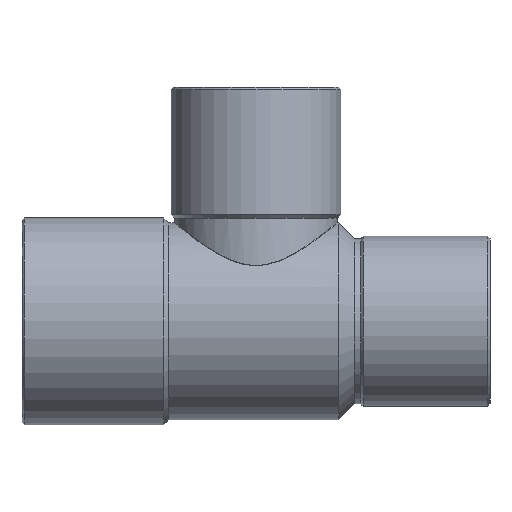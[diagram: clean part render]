
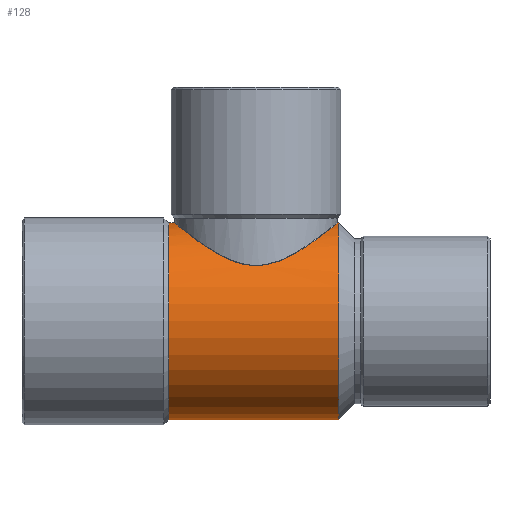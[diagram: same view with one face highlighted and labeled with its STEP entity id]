
A CAD part, top view. The second image highlights one B-rep face of the part: STEP entity #128.
In plain terms, the highlighted cylindrical face has radius 8 mm (diameter 16 mm), a partial arc.
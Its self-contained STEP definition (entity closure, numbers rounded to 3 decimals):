
#44=CARTESIAN_POINT('',(0.,0.,0.0));
#45=DIRECTION('',(1.0,0.,0.0));
#46=DIRECTION('',(0.0,1.0,0.0));
#47=AXIS2_PLACEMENT_3D('',#44,#45,#46);
#48=CYLINDRICAL_SURFACE('',#47,8.);
#49=CARTESIAN_POINT('',(-7.1,8.0,0.));
#50=VERTEX_POINT('',#49);
#51=CARTESIAN_POINT('',(-6.63,8.,0.));
#52=VERTEX_POINT('',#51);
#53=CARTESIAN_POINT('',(-7.1,8.0,0.));
#54=DIRECTION('',(1.0,0.0,0.0));
#55=VECTOR('',#54,0.47);
#56=LINE('',#53,#55);
#57=EDGE_CURVE('',#50,#52,#56,.T.);
#58=ORIENTED_EDGE('',*,*,#57,.F.);
#59=CARTESIAN_POINT('',(-7.1,-8.,0.));
#60=VERTEX_POINT('',#59);
#61=CARTESIAN_POINT('',(-7.1,0.,0.0));
#62=DIRECTION('',(1.0,0.0,0.0));
#63=DIRECTION('',(0.0,1.0,0.0));
#64=AXIS2_PLACEMENT_3D('',#61,#62,#63);
#65=CIRCLE('',#64,8.);
#66=EDGE_CURVE('',#50,#60,#65,.T.);
#67=ORIENTED_EDGE('',*,*,#66,.T.);
#68=CARTESIAN_POINT('',(6.7,-8.,0.));
#69=VERTEX_POINT('',#68);
#70=CARTESIAN_POINT('',(6.7,-8.,0.));
#71=DIRECTION('',(-1.0,0.0,0.0));
#72=VECTOR('',#71,13.8);
#73=LINE('',#70,#72);
#74=EDGE_CURVE('',#69,#60,#73,.T.);
#75=ORIENTED_EDGE('',*,*,#74,.F.);
#76=CARTESIAN_POINT('',(6.7,8.,0.0));
#77=VERTEX_POINT('',#76);
#78=CARTESIAN_POINT('',(6.7,0.,0.0));
#79=DIRECTION('',(-1.0,0.0,0.0));
#80=DIRECTION('',(0.0,1.0,0.0));
#81=AXIS2_PLACEMENT_3D('',#78,#79,#80);
#82=CIRCLE('',#81,8.);
#83=EDGE_CURVE('',#69,#77,#82,.T.);
#84=ORIENTED_EDGE('',*,*,#83,.T.);
#85=CARTESIAN_POINT('',(6.63,8.0,0.));
#86=VERTEX_POINT('',#85);
#87=CARTESIAN_POINT('',(6.63,8.0,0.));
#88=DIRECTION('',(1.0,0.0,0.0));
#89=VECTOR('',#88,0.07);
#90=LINE('',#87,#89);
#91=EDGE_CURVE('',#86,#77,#90,.T.);
#92=ORIENTED_EDGE('',*,*,#91,.F.);
#93=CARTESIAN_POINT('',(-6.63,8.,0.));
#94=CARTESIAN_POINT('',(-6.63,8.,0.011));
#95=CARTESIAN_POINT('',(-6.63,8.,0.022));
#96=CARTESIAN_POINT('',(-6.627,7.998,0.578));
#97=CARTESIAN_POINT('',(-6.556,7.939,1.122));
#98=CARTESIAN_POINT('',(-6.265,7.702,2.251));
#99=CARTESIAN_POINT('',(-6.025,7.507,2.821));
#100=CARTESIAN_POINT('',(-5.536,7.125,3.654));
#101=CARTESIAN_POINT('',(-5.323,6.962,3.954));
#102=CARTESIAN_POINT('',(-4.86,6.617,4.508));
#103=CARTESIAN_POINT('',(-4.61,6.436,4.76));
#104=CARTESIAN_POINT('',(-3.974,5.998,5.31));
#105=CARTESIAN_POINT('',(-3.573,5.737,5.586));
#106=CARTESIAN_POINT('',(-2.696,5.24,6.055));
#107=CARTESIAN_POINT('',(-2.215,5.001,6.249));
#108=CARTESIAN_POINT('',(-1.164,4.634,6.526));
#109=CARTESIAN_POINT('',(-0.588,4.514,6.605));
#110=CARTESIAN_POINT('',(0.624,4.513,6.606));
#111=CARTESIAN_POINT('',(1.25,4.652,6.514));
#112=CARTESIAN_POINT('',(2.409,5.083,6.184));
#113=CARTESIAN_POINT('',(2.944,5.368,5.946));
#114=CARTESIAN_POINT('',(3.954,5.977,5.336));
#115=CARTESIAN_POINT('',(4.423,6.301,4.958));
#116=CARTESIAN_POINT('',(5.29,6.932,4.035));
#117=CARTESIAN_POINT('',(5.676,7.233,3.483));
#118=CARTESIAN_POINT('',(6.289,7.719,2.213));
#119=CARTESIAN_POINT('',(6.503,7.896,1.491));
#120=CARTESIAN_POINT('',(6.616,7.988,0.496));
#121=CARTESIAN_POINT('',(6.63,8.0,0.248));
#122=CARTESIAN_POINT('',(6.63,8.0,0.));
#123=B_SPLINE_CURVE_WITH_KNOTS('',3,(#93,#94,#95,#96,#97,#98,#99,#100,#101,#102,#103,#104,#105,#106,#107,#108,#109,#110,#111,#112,#113,#114,#115,#116,#117,#118,#119,#120,#121,#122),.UNSPECIFIED.,.F.,.U.,(4,2,2,2,2,2,2,2,2,2,2,2,2,2,4),(1.074,1.077,1.237,1.423,1.539,1.655,1.814,1.978,2.147,2.331,2.518,2.716,2.929,3.15,3.222),.UNSPECIFIED.);
#124=EDGE_CURVE('',#52,#86,#123,.T.);
#125=ORIENTED_EDGE('',*,*,#124,.F.);
#126=EDGE_LOOP('',(#58,#67,#75,#84,#92,#125));
#127=FACE_OUTER_BOUND('',#126,.T.);
#128=ADVANCED_FACE('',(#127),#48,.T.);
